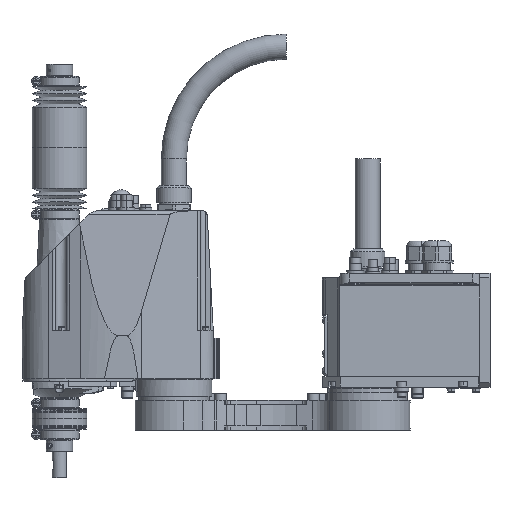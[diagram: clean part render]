
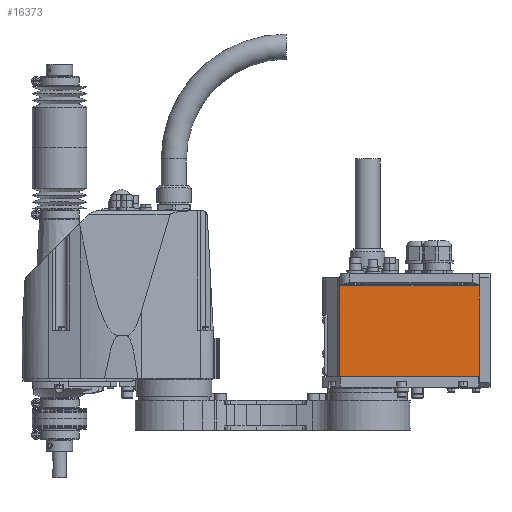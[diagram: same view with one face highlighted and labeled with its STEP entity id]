
A CAD part, top view. The second image highlights one B-rep face of the part: STEP entity #16373.
In plain terms, the highlighted planar face has unit normal (0, 0, 1).
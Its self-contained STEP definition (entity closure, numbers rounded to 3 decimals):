
#10691 = EDGE_CURVE( '', #27363, #29665, #31448, .T. );
#12199 = EDGE_CURVE( '', #27363, #14893, #33144, .T. );
#14893 = VERTEX_POINT( '', #36202 );
#16373 = ADVANCED_FACE( '', ( #37837 ), #37838, .T. );
#17199 = VERTEX_POINT( '', #38759 );
#19297 = EDGE_CURVE( '', #29665, #17199, #41075, .T. );
#25255 = EDGE_CURVE( '', #17199, #14893, #47764, .T. );
#27363 = VERTEX_POINT( '', #50116 );
#29665 = VERTEX_POINT( '', #52684 );
#31448 = LINE( '', #54732, #54733 );
#33144 = LINE( '', #57170, #57171 );
#36202 = CARTESIAN_POINT( '', ( 127., 142., 50.5 ) );
#37837 = FACE_OUTER_BOUND( '', #63864, .T. );
#37838 = PLANE( '', #63865 );
#38759 = CARTESIAN_POINT( '', ( 127., 39., 50.5 ) );
#41075 = LINE( '', #68461, #68462 );
#47764 = LINE( '', #78129, #78130 );
#50116 = CARTESIAN_POINT( '', ( -31.897, 142., 50.5 ) );
#52684 = CARTESIAN_POINT( '', ( -31.897, 39., 50.5 ) );
#54732 = CARTESIAN_POINT( '', ( -31.897, 90.5, 50.5 ) );
#54733 = VECTOR( '', #88089, 1. );
#57170 = CARTESIAN_POINT( '', ( -51.5, 142., 50.5 ) );
#57171 = VECTOR( '', #90094, 1. );
#63864 = EDGE_LOOP( '', ( #95662, #95663, #95664, #95665 ) );
#63865 = AXIS2_PLACEMENT_3D( '', #95666, #95667, #95668 );
#68461 = CARTESIAN_POINT( '', ( -51.5, 39., 50.5 ) );
#68462 = VECTOR( '', #99469, 1. );
#78129 = CARTESIAN_POINT( '', ( 127., 142., 50.5 ) );
#78130 = VECTOR( '', #107530, 1. );
#88089 = DIRECTION( '', ( 0., -1., 0. ) );
#90094 = DIRECTION( '', ( 1., 0., 0. ) );
#95662 = ORIENTED_EDGE( '', *, *, #10691, .T. );
#95663 = ORIENTED_EDGE( '', *, *, #19297, .T. );
#95664 = ORIENTED_EDGE( '', *, *, #25255, .T. );
#95665 = ORIENTED_EDGE( '', *, *, #12199, .F. );
#95666 = CARTESIAN_POINT( '', ( -51.5, 39., 50.5 ) );
#95667 = DIRECTION( '', ( 0., 0., 1. ) );
#95668 = DIRECTION( '', ( 0., -1., 0. ) );
#99469 = DIRECTION( '', ( 1., 0., 0. ) );
#107530 = DIRECTION( '', ( 0., 1., 0. ) );
